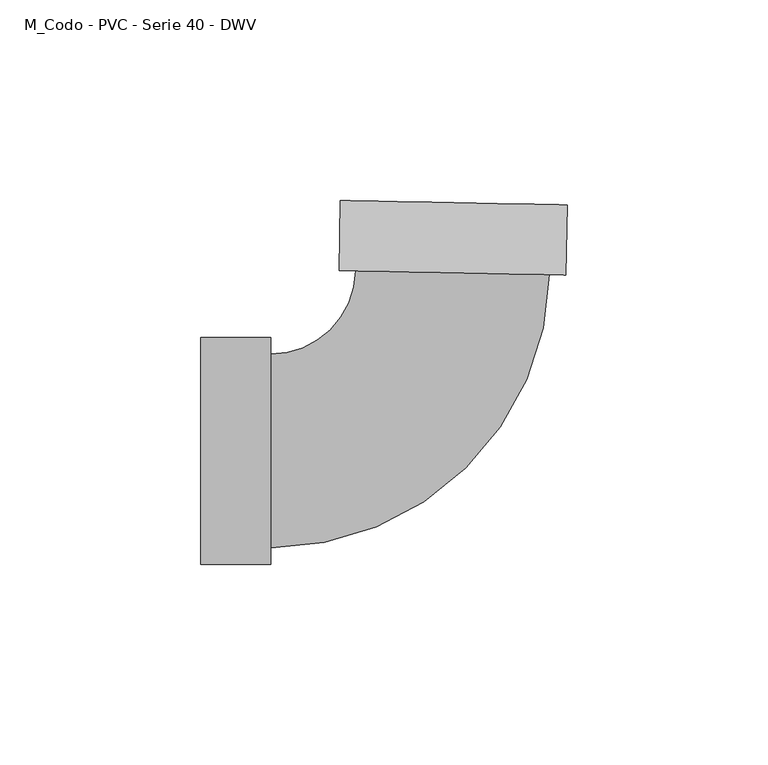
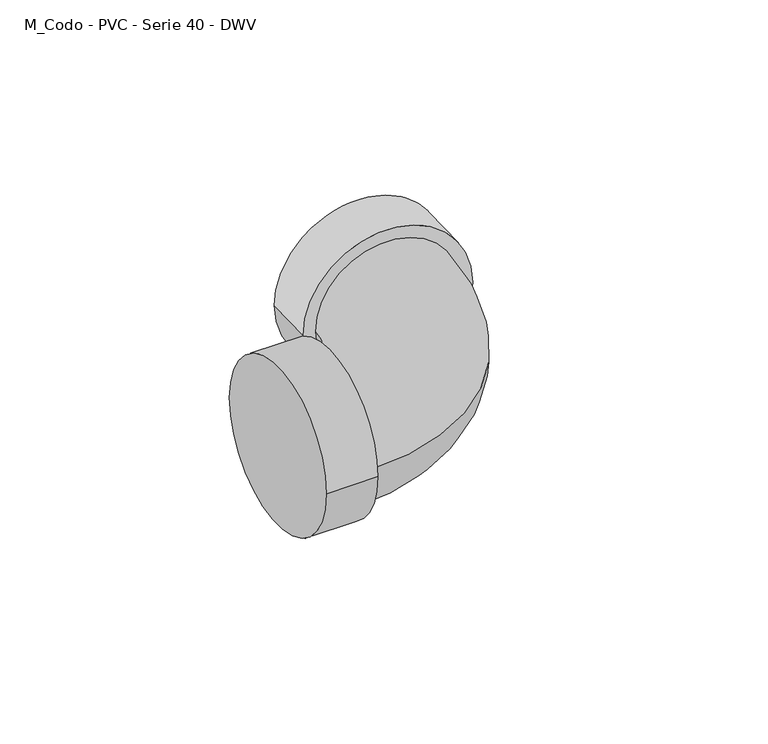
"""IFC4 building model written with IfcOpenShell, lengths in millimetres: pipe fitting geometry, M_Codo - PVC - Serie 40 - DWV : Estándar."""

from ifc_helpers import new_model, si_unit, point, frame, origin, place, context, project, spatial, circle_curve, ellipse_curve, trimmed, source, transform, mapped, element, save
from ifc_brep_helpers import plane_surface, cylinder_surface, revolved_surface, advanced_brep


def m_codo_pvc_serie_40_dwv_0d02a629(model_context):
    return source(origin(), model_context, "Body", "AdvancedBrep", [
        advanced_brep(
        [(-61.8998, -28.2829, 0.0), (-61.8998, 28.2829, 0.0), (-44.45, -28.2829, 0.0), (-44.45, 28.2829, 0.0), (-44.45, -24.13, 0.0), (-44.45, 24.13, 0.0), (-23.2363532, 44.9236162, 0.0), (25.0139977, 43.9586092, 0.0), (29.1660674, 43.8755678, 0.0), (-27.3884229, 45.0066576, 0.0), (29.5149936, 61.3218789, 0.0), (-27.0394966, 62.4529687, 0.0)],
        [
            (0, 1, circle_curve(frame((-61.8998, 0.0, 0.0), z_axis=(-1.0, 0.0, 0.0), x_axis=(0.0, 1.0, 0.0)), 28.2829)),
            (1, 0, circle_curve(frame((-61.8998, 0.0, 0.0), z_axis=(-1.0, 0.0, 0.0), x_axis=(0.0, 1.0, 0.0)), 28.2829)),
            (2, 3, circle_curve(frame((-44.45, 0.0, 0.0), z_axis=(1.0, 0.0, 0.0), x_axis=(0.0, 1.0, 0.0)), 28.2829)),
            (3, 2, circle_curve(frame((-44.45, 0.0, 0.0), z_axis=(1.0, 0.0, 0.0), x_axis=(0.0, 1.0, 0.0)), 28.2829)),
            (4, 5, circle_curve(frame((-44.45, 0.0, 0.0), z_axis=(-1.0, 0.0, 0.0), x_axis=(0.0, 1.0, 0.0)), 24.13)),
            (5, 4, circle_curve(frame((-44.45, 0.0, 0.0), z_axis=(-1.0, 0.0, 0.0), x_axis=(0.0, 1.0, 0.0)), 24.13)),
            (0, 2),
            (3, 1),
            (6, 5, circle_curve(frame((-44.45, 45.3478891, 0.0), z_axis=(0.0, 0.0, -1.0), x_axis=(0.0, -1.0, 0.0)), 21.2178891)),
            (4, 7, circle_curve(frame((-44.45, 45.3478891, 0.0), z_axis=(0.0, 0.0, 1.0), x_axis=(0.0, -1.0, 0.0)), 69.4778891)),
            (7, 6, circle_curve(frame((0.8888223, 44.4411127, 0.0), z_axis=(-0.01999600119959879, -0.999800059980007, 0.0), x_axis=(-0.999800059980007, 0.01999600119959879, 0.0)), 24.13)),
            (6, 7, circle_curve(frame((0.8888223, 44.4411127, 0.0), z_axis=(-0.01999600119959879, -0.999800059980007, 0.0), x_axis=(-0.999800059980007, 0.01999600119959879, 0.0)), 24.13)),
            (8, 9, circle_curve(frame((0.8888223, 44.4411127, 0.0), z_axis=(-0.01999600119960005, -0.999800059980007, 0.0), x_axis=(-0.999800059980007, 0.01999600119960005, 0.0)), 28.2829)),
            (9, 8, circle_curve(frame((0.8888223, 44.4411127, 0.0), z_axis=(-0.01999600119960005, -0.999800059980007, 0.0), x_axis=(-0.999800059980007, 0.01999600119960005, 0.0)), 28.2829)),
            (10, 11, circle_curve(frame((1.2377485, 61.8874238, 0.0), z_axis=(0.01999600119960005, 0.999800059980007, 0.0), x_axis=(-0.999800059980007, 0.01999600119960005, 0.0)), 28.2829)),
            (11, 10, circle_curve(frame((1.2377485, 61.8874238, 0.0), z_axis=(0.01999600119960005, 0.999800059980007, 0.0), x_axis=(-0.999800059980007, 0.01999600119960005, 0.0)), 28.2829)),
            (8, 10),
            (11, 9),
        ],
        [
            plane_surface(frame((-61.8998, 0.0, 0.0), z_axis=(-1.0, 0.0, 0.0), x_axis=(0.0, 0.0, 1.0))),
            plane_surface(frame((-44.45, 0.0, 0.0), z_axis=(1.0, 0.0, 0.0), x_axis=(0.0, 0.0, 1.0))),
            cylinder_surface(frame((-61.8998, 0.0, 0.0), z_axis=(-1.0, 0.0, 0.0), x_axis=(0.0, 1.0, 0.0)), 28.2829),
            revolved_surface(trimmed(ellipse_curve(frame((-44.45, 0.0, 0.0), z_axis=(-1.0, 0.0, 0.0), x_axis=(0.0, 1.0, 0.0)), 24.13, 24.13), [point((-44.45, -24.13, 0.0))], [point((-44.45, 24.13, 0.0))], True, "CARTESIAN"), (-44.45, 45.3478891, 0.0), (0.0, 0.0, 1.0)),
            revolved_surface(trimmed(ellipse_curve(frame((-44.45, 0.0, 0.0), z_axis=(-1.0, 0.0, 0.0), x_axis=(0.0, 1.0, 0.0)), 24.13, 24.13), [point((-44.45, 24.13, 0.0))], [point((-44.45, -24.13, 0.0))], True, "CARTESIAN"), (-44.45, 45.3478891, 0.0), (0.0, 0.0, 1.0)),
            plane_surface(frame((0.8888223, 44.4411127, 0.0), z_axis=(-0.01999600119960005, -0.999800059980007, 0.0), x_axis=(0.0, 0.0, 1.0))),
            plane_surface(frame((1.2377485, 61.8874238, 0.0), z_axis=(0.01999600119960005, 0.999800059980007, 0.0), x_axis=(0.0, 0.0, 1.0))),
            cylinder_surface(frame((0.8888223, 44.4411127, 0.0), z_axis=(-0.01999600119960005, -0.999800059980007, 0.0), x_axis=(-0.999800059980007, 0.01999600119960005, 0.0)), 28.2829),
        ],
        [
            (0, [[1, 2]]),
            (1, [[3, 4], [5, 6]]),
            (2, [[-1, 7, -4, 8]]),
            (2, [[-2, -8, -3, -7]]),
            (3, [[9, -5, 10, 11]]),
            (4, [[-9, 12, -10, -6]]),
            (5, [[13, 14], [-11, -12]]),
            (6, [[15, 16]]),
            (7, [[-13, 17, -16, 18]]),
            (7, [[-14, -18, -15, -17]]),
        ],
    ),
    ])


if __name__ == "__main__":
    model = new_model("IFC4")
    model_context = context("Model", 3, world=origin())
    ifc_project = project(units=[si_unit("LENGTHUNIT", "METRE", prefix="MILLI")], contexts=[model_context])
    site = spatial("IfcSite", under=ifc_project)
    building = spatial("IfcBuilding", under=site)
    placement = place(None, origin())
    m_codo_pvc_serie_40_dwv_shape = m_codo_pvc_serie_40_dwv_0d02a629(model_context)
    element("IfcPipeFitting", 1, ObjectType="M_Codo - PVC - Serie 40 - DWV : Estándar", at=placement, inside=building, context=model_context, shape_type="MappedRepresentation", body=[
        mapped(m_codo_pvc_serie_40_dwv_shape, transform((0.0, 0.0, 0.0), x_axis=(1.0, 0.0, 0.0), y_axis=(0.0, 1.0, 0.0), z_axis=(0.0, 0.0, 1.0))),
    ])
    save(model, "model.ifc")
